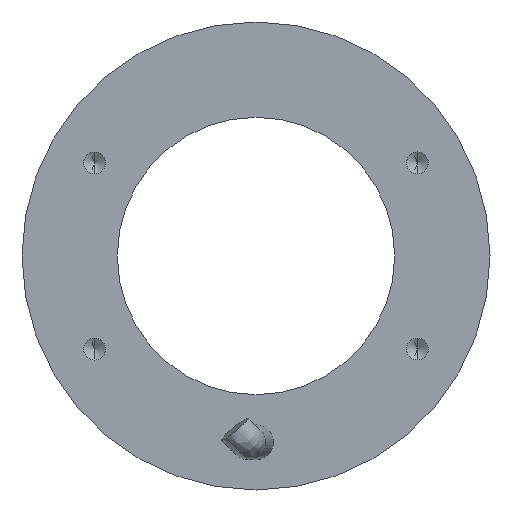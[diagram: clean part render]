
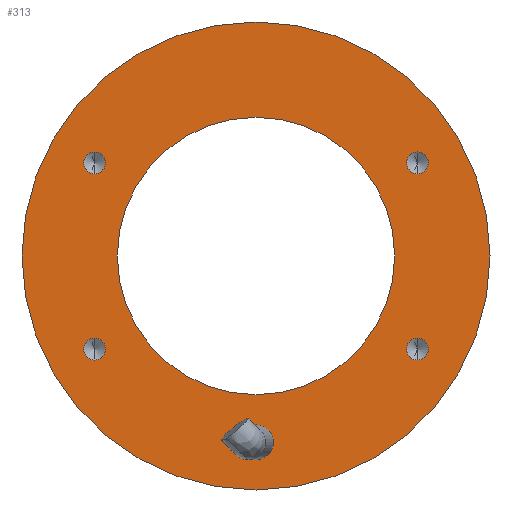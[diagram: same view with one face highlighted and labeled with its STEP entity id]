
A CAD part, front view. The second image highlights one B-rep face of the part: STEP entity #313.
In plain terms, the highlighted planar face has unit normal (0, -1, 0).
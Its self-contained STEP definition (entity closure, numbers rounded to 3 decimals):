
#4 = AXIS2_PLACEMENT_3D ( 'NONE', #1249, #1388, #1021 ) ;
#64 = ORIENTED_EDGE ( 'NONE', *, *, #535, .F. ) ;
#65 = EDGE_CURVE ( 'NONE', #606, #735, #402, .T. ) ;
#66 = DIRECTION ( 'NONE',  ( 0., 0., 1. ) ) ;
#80 = EDGE_CURVE ( 'NONE', #1390, #375, #337, .T. ) ;
#92 = CIRCLE ( 'NONE', #1083, 1.25 ) ;
#97 = CARTESIAN_POINT ( 'NONE',  ( 0., 0., 0. ) ) ;
#120 = CIRCLE ( 'NONE', #1420, 27. ) ;
#147 = DIRECTION ( 'NONE',  ( 0., 1., 0. ) ) ;
#155 = EDGE_CURVE ( 'NONE', #1374, #1031, #625, .T. ) ;
#158 = CARTESIAN_POINT ( 'NONE',  ( -18.62, 0., 12. ) ) ;
#167 = ORIENTED_EDGE ( 'NONE', *, *, #619, .T. ) ;
#170 = DIRECTION ( 'NONE',  ( 0., 0., -1. ) ) ;
#184 = CARTESIAN_POINT ( 'NONE',  ( 0., 0., -16. ) ) ;
#200 = DIRECTION ( 'NONE',  ( 0., -1., 0. ) ) ;
#207 = VERTEX_POINT ( 'NONE', #1008 ) ;
#217 = DIRECTION ( 'NONE',  ( 0., -1., 0. ) ) ;
#222 = DIRECTION ( 'NONE',  ( 0., 0., -1. ) ) ;
#229 = CARTESIAN_POINT ( 'NONE',  ( 18.62, 0., 12. ) ) ;
#233 = EDGE_LOOP ( 'NONE', ( #368, #1427 ) ) ;
#253 = ORIENTED_EDGE ( 'NONE', *, *, #1023, .T. ) ;
#263 = CARTESIAN_POINT ( 'NONE',  ( -18.62, 0., -12. ) ) ;
#273 = PLANE ( 'NONE',  #607 ) ;
#274 = CIRCLE ( 'NONE', #1063, 16. ) ;
#293 = EDGE_LOOP ( 'NONE', ( #253, #167 ) ) ;
#296 = EDGE_CURVE ( 'NONE', #207, #1346, #120, .T. ) ;
#303 = ORIENTED_EDGE ( 'NONE', *, *, #1000, .F. ) ;
#304 = ORIENTED_EDGE ( 'NONE', *, *, #80, .F. ) ;
#313 = ADVANCED_FACE ( 'NONE', ( #397, #1376, #956, #726, #410, #1287, #401 ), #273, .F. ) ;
#324 = VERTEX_POINT ( 'NONE', #158 ) ;
#326 = DIRECTION ( 'NONE',  ( 0., 1., 0. ) ) ;
#337 = CIRCLE ( 'NONE', #1328, 1.25 ) ;
#351 = EDGE_CURVE ( 'NONE', #1346, #207, #1174, .T. ) ;
#368 = ORIENTED_EDGE ( 'NONE', *, *, #1215, .F. ) ;
#369 = CARTESIAN_POINT ( 'NONE',  ( 0., 0., -21.5 ) ) ;
#375 = VERTEX_POINT ( 'NONE', #838 ) ;
#384 = CARTESIAN_POINT ( 'NONE',  ( 18.62, 0., 9.5 ) ) ;
#397 = FACE_BOUND ( 'NONE', #1010, .T. ) ;
#401 = FACE_BOUND ( 'NONE', #293, .T. ) ;
#402 = CIRCLE ( 'NONE', #582, 1.25 ) ;
#410 = FACE_BOUND ( 'NONE', #890, .T. ) ;
#418 = CARTESIAN_POINT ( 'NONE',  ( 0., 0., 16. ) ) ;
#430 = CARTESIAN_POINT ( 'NONE',  ( 18.62, 0., -10.75 ) ) ;
#451 = AXIS2_PLACEMENT_3D ( 'NONE', #1339, #200, #222 ) ;
#460 = VERTEX_POINT ( 'NONE', #418 ) ;
#464 = DIRECTION ( 'NONE',  ( 0., 0., -1. ) ) ;
#511 = DIRECTION ( 'NONE',  ( 0., -1., 0. ) ) ;
#533 = CIRCLE ( 'NONE', #904, 2. ) ;
#535 = EDGE_CURVE ( 'NONE', #1235, #324, #92, .T. ) ;
#550 = DIRECTION ( 'NONE',  ( 0., 0., -1. ) ) ;
#554 = CARTESIAN_POINT ( 'NONE',  ( 18.62, 0., 10.75 ) ) ;
#555 = CIRCLE ( 'NONE', #451, 2. ) ;
#558 = CIRCLE ( 'NONE', #4, 1.25 ) ;
#582 = AXIS2_PLACEMENT_3D ( 'NONE', #1406, #754, #1305 ) ;
#606 = VERTEX_POINT ( 'NONE', #802 ) ;
#607 = AXIS2_PLACEMENT_3D ( 'NONE', #710, #1039, #66 ) ;
#619 = EDGE_CURVE ( 'NONE', #460, #639, #627, .T. ) ;
#625 = CIRCLE ( 'NONE', #1080, 1.25 ) ;
#627 = CIRCLE ( 'NONE', #1019, 16. ) ;
#639 = VERTEX_POINT ( 'NONE', #184 ) ;
#646 = DIRECTION ( 'NONE',  ( 0., 0., -1. ) ) ;
#685 = DIRECTION ( 'NONE',  ( 0., 1., 0. ) ) ;
#707 = EDGE_CURVE ( 'NONE', #1031, #1374, #1228, .T. ) ;
#709 = EDGE_CURVE ( 'NONE', #741, #1313, #555, .T. ) ;
#710 = CARTESIAN_POINT ( 'NONE',  ( 0., 0., 0. ) ) ;
#726 = FACE_BOUND ( 'NONE', #1191, .T. ) ;
#735 = VERTEX_POINT ( 'NONE', #263 ) ;
#737 = EDGE_CURVE ( 'NONE', #375, #1390, #1108, .T. ) ;
#741 = VERTEX_POINT ( 'NONE', #914 ) ;
#754 = DIRECTION ( 'NONE',  ( 0., -1., 0. ) ) ;
#798 = ORIENTED_EDGE ( 'NONE', *, *, #737, .F. ) ;
#800 = EDGE_CURVE ( 'NONE', #324, #1235, #1334, .T. ) ;
#802 = CARTESIAN_POINT ( 'NONE',  ( -18.62, 0., -9.5 ) ) ;
#807 = ORIENTED_EDGE ( 'NONE', *, *, #707, .F. ) ;
#808 = DIRECTION ( 'NONE',  ( 0., 0., -1. ) ) ;
#838 = CARTESIAN_POINT ( 'NONE',  ( 18.62, 0., -12. ) ) ;
#876 = EDGE_LOOP ( 'NONE', ( #1051, #916 ) ) ;
#890 = EDGE_LOOP ( 'NONE', ( #303, #1347 ) ) ;
#904 = AXIS2_PLACEMENT_3D ( 'NONE', #369, #926, #808 ) ;
#907 = DIRECTION ( 'NONE',  ( 0., 0., -1. ) ) ;
#911 = CARTESIAN_POINT ( 'NONE',  ( 0., 0., 0. ) ) ;
#914 = CARTESIAN_POINT ( 'NONE',  ( 0., 0., -19.5 ) ) ;
#916 = ORIENTED_EDGE ( 'NONE', *, *, #296, .F. ) ;
#926 = DIRECTION ( 'NONE',  ( 0., -1., 0. ) ) ;
#935 = AXIS2_PLACEMENT_3D ( 'NONE', #1124, #1344, #464 ) ;
#941 = DIRECTION ( 'NONE',  ( 0., 0., 1. ) ) ;
#956 = FACE_BOUND ( 'NONE', #1046, .T. ) ;
#969 = CARTESIAN_POINT ( 'NONE',  ( 0., 0., -23.5 ) ) ;
#980 = DIRECTION ( 'NONE',  ( 0., 0., 1. ) ) ;
#981 = CARTESIAN_POINT ( 'NONE',  ( -18.62, 0., 10.75 ) ) ;
#988 = DIRECTION ( 'NONE',  ( 0., -1., 0. ) ) ;
#1000 = EDGE_CURVE ( 'NONE', #1313, #741, #533, .T. ) ;
#1008 = CARTESIAN_POINT ( 'NONE',  ( 0., 0., 27. ) ) ;
#1010 = EDGE_LOOP ( 'NONE', ( #64, #1216 ) ) ;
#1019 = AXIS2_PLACEMENT_3D ( 'NONE', #1236, #685, #1122 ) ;
#1021 = DIRECTION ( 'NONE',  ( 0., 0., -1. ) ) ;
#1023 = EDGE_CURVE ( 'NONE', #639, #460, #274, .T. ) ;
#1031 = VERTEX_POINT ( 'NONE', #384 ) ;
#1039 = DIRECTION ( 'NONE',  ( 0., 1., 0. ) ) ;
#1046 = EDGE_LOOP ( 'NONE', ( #807, #1358 ) ) ;
#1051 = ORIENTED_EDGE ( 'NONE', *, *, #351, .F. ) ;
#1057 = CARTESIAN_POINT ( 'NONE',  ( 0., 0., 0. ) ) ;
#1063 = AXIS2_PLACEMENT_3D ( 'NONE', #911, #147, #1375 ) ;
#1071 = DIRECTION ( 'NONE',  ( 0., 0., -1. ) ) ;
#1077 = DIRECTION ( 'NONE',  ( 0., -1., 0. ) ) ;
#1080 = AXIS2_PLACEMENT_3D ( 'NONE', #554, #1119, #907 ) ;
#1083 = AXIS2_PLACEMENT_3D ( 'NONE', #981, #988, #550 ) ;
#1089 = CARTESIAN_POINT ( 'NONE',  ( 18.62, 0., 10.75 ) ) ;
#1108 = CIRCLE ( 'NONE', #935, 1.25 ) ;
#1119 = DIRECTION ( 'NONE',  ( 0., -1., 0. ) ) ;
#1122 = DIRECTION ( 'NONE',  ( 0., 0., 1. ) ) ;
#1124 = CARTESIAN_POINT ( 'NONE',  ( 18.62, 0., -10.75 ) ) ;
#1137 = AXIS2_PLACEMENT_3D ( 'NONE', #1089, #1077, #1071 ) ;
#1143 = DIRECTION ( 'NONE',  ( 0., 1., 0. ) ) ;
#1170 = CARTESIAN_POINT ( 'NONE',  ( -18.62, 0., 10.75 ) ) ;
#1174 = CIRCLE ( 'NONE', #1199, 27. ) ;
#1191 = EDGE_LOOP ( 'NONE', ( #798, #304 ) ) ;
#1199 = AXIS2_PLACEMENT_3D ( 'NONE', #97, #326, #980 ) ;
#1206 = CARTESIAN_POINT ( 'NONE',  ( 18.62, 0., -9.5 ) ) ;
#1215 = EDGE_CURVE ( 'NONE', #735, #606, #558, .T. ) ;
#1216 = ORIENTED_EDGE ( 'NONE', *, *, #800, .F. ) ;
#1228 = CIRCLE ( 'NONE', #1137, 1.25 ) ;
#1235 = VERTEX_POINT ( 'NONE', #1270 ) ;
#1236 = CARTESIAN_POINT ( 'NONE',  ( 0., 0., 0. ) ) ;
#1249 = CARTESIAN_POINT ( 'NONE',  ( -18.62, 0., -10.75 ) ) ;
#1270 = CARTESIAN_POINT ( 'NONE',  ( -18.62, 0., 9.5 ) ) ;
#1287 = FACE_OUTER_BOUND ( 'NONE', #876, .T. ) ;
#1305 = DIRECTION ( 'NONE',  ( 0., 0., -1. ) ) ;
#1313 = VERTEX_POINT ( 'NONE', #969 ) ;
#1328 = AXIS2_PLACEMENT_3D ( 'NONE', #430, #217, #646 ) ;
#1334 = CIRCLE ( 'NONE', #1382, 1.25 ) ;
#1339 = CARTESIAN_POINT ( 'NONE',  ( 0., 0., -21.5 ) ) ;
#1344 = DIRECTION ( 'NONE',  ( 0., -1., 0. ) ) ;
#1346 = VERTEX_POINT ( 'NONE', #1436 ) ;
#1347 = ORIENTED_EDGE ( 'NONE', *, *, #709, .F. ) ;
#1358 = ORIENTED_EDGE ( 'NONE', *, *, #155, .F. ) ;
#1374 = VERTEX_POINT ( 'NONE', #229 ) ;
#1375 = DIRECTION ( 'NONE',  ( 0., 0., 1. ) ) ;
#1376 = FACE_BOUND ( 'NONE', #233, .T. ) ;
#1382 = AXIS2_PLACEMENT_3D ( 'NONE', #1170, #511, #170 ) ;
#1388 = DIRECTION ( 'NONE',  ( 0., -1., 0. ) ) ;
#1390 = VERTEX_POINT ( 'NONE', #1206 ) ;
#1406 = CARTESIAN_POINT ( 'NONE',  ( -18.62, 0., -10.75 ) ) ;
#1420 = AXIS2_PLACEMENT_3D ( 'NONE', #1057, #1143, #941 ) ;
#1427 = ORIENTED_EDGE ( 'NONE', *, *, #65, .F. ) ;
#1436 = CARTESIAN_POINT ( 'NONE',  ( 0., 0., -27. ) ) ;
